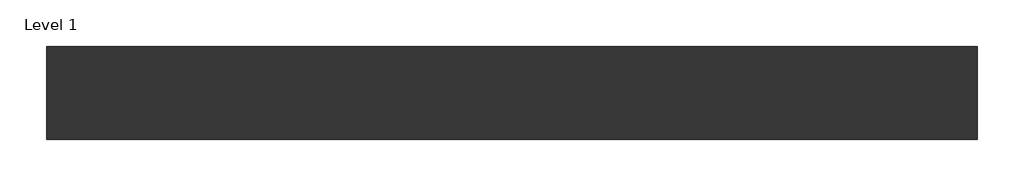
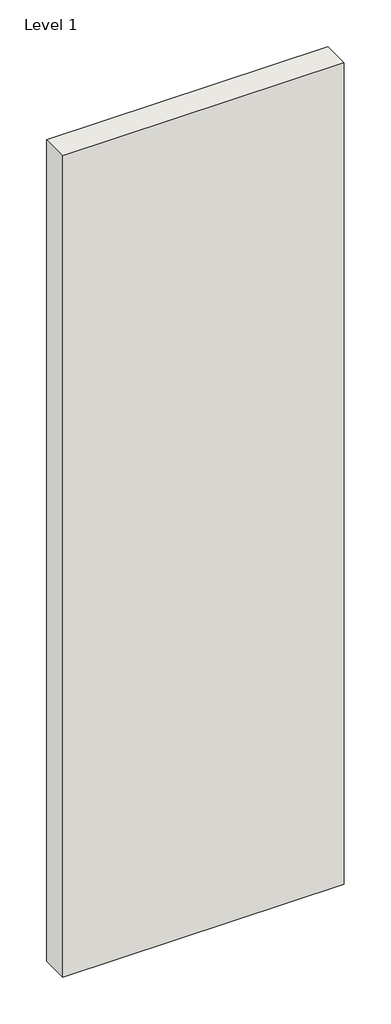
# One storey: 1 wall.
"""IFC4 building model written with IfcOpenShell, lengths in millimetres."""

from ifc_helpers import new_model, si_unit, origin, origin_with_axes, place, context, project, spatial, polyline, outline, extrude, element, save

model = new_model("IFC4")

# Units and contexts
model_context = context("Model", 3, world=origin())
ifc_project = project(units=[si_unit("LENGTHUNIT", "METRE", prefix="MILLI")], contexts=[model_context])

# Site, building, storey
site = spatial("IfcSite", under=ifc_project)
building = spatial("IfcBuilding", under=site)
storey = spatial("IfcBuildingStorey", under=building, Name="Level 1", Elevation=0.0)

# Wall
placement = place(None, origin())
element("IfcWall", 1, ObjectType="Tabique Simple – Placo®  120/600 PPH 15 + 90 (LM) + PPH 15 con LM Isover - 48 dBA", at=placement, inside=storey, context=model_context, shape_type="SweptSolid", body=[
    extrude(outline(polyline([(-28786.4711674, -90480.7381776), (-29986.4711674, -90480.7381776), (-29986.4711674, -90360.7381776), (-28786.4711674, -90360.7381776), (-28786.4711674, -90480.7381776)])), origin_with_axes(), (0.0, 0.0, 1.0), 3700.0),
])

save(model, "model.ifc")
